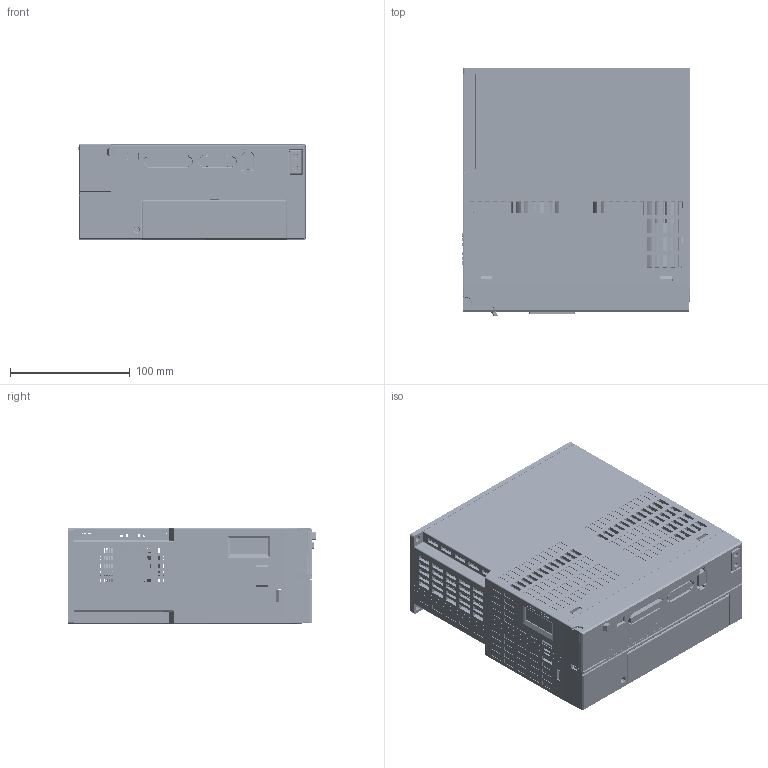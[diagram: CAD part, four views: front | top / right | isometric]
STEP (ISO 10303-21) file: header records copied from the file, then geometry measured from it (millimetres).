
FILE_DESCRIPTION((''),'2;1');
FILE_NAME('SDV3-C_ASM','2024-03-20T10:42:55',('ZhangJF'),(''),'CREO PARAMETRIC BY PTC INC, 2019010','CREO PARAMETRIC BY PTC INC, 2019010','');
FILE_SCHEMA(('CONFIG_CONTROL_DESIGN','SHAPE_APPEARANCE_LAYERS_GROUPS'));
Products named in the file (17): SANREQI; FENGSHAN-606025; ZUOCEGAI; YOUCEGAI; SDV3-C-SHANGGAI; FANGAI; DUANZITAIFANGAI; LOGO; SDV3-C-CHAPIANSANREQI-20230225; PCB-XIANSHIBAN-20230307; DIANRONGBAN-20230426; KONGZHIBAN-20230426; QUDONGBAN-20230428; BIAOSHI; 777; 111; SDV3-C_ASM
Assembly tree (16 placements, depth 2):
  SDV3-C_ASM
    SANREQI
    FENGSHAN-606025
    ZUOCEGAI
    YOUCEGAI
    SDV3-C-SHANGGAI
    FANGAI
    DUANZITAIFANGAI
    LOGO
    SDV3-C-CHAPIANSANREQI-20230225
    PCB-XIANSHIBAN-20230307
    DIANRONGBAN-20230426
    KONGZHIBAN-20230426
    QUDONGBAN-20230428
    BIAOSHI
    777
    111
Bounding box: 190.35 x 207.1 x 80 mm (x, y, z)
Volume: 1601459.6 mm3; surface area: 1136664.2 mm2
Topology: 48 solids, 48 shells, 11973 faces, 32063 edges, 21038 vertices
Faces by surface type: plane 9419, cylinder 1629, extrusion 415, cone 304, torus 91, bspline 79, sphere 36
Entity records: 510843 total; most frequent: CARTESIAN_POINT 77321, ORIENTED_EDGE 64122, DIRECTION 56942, EDGE_CURVE 32061, PRESENTATION_STYLE_ASSIGNMENT 29172, STYLED_ITEM 29172, VECTOR 27382, LINE 26967
